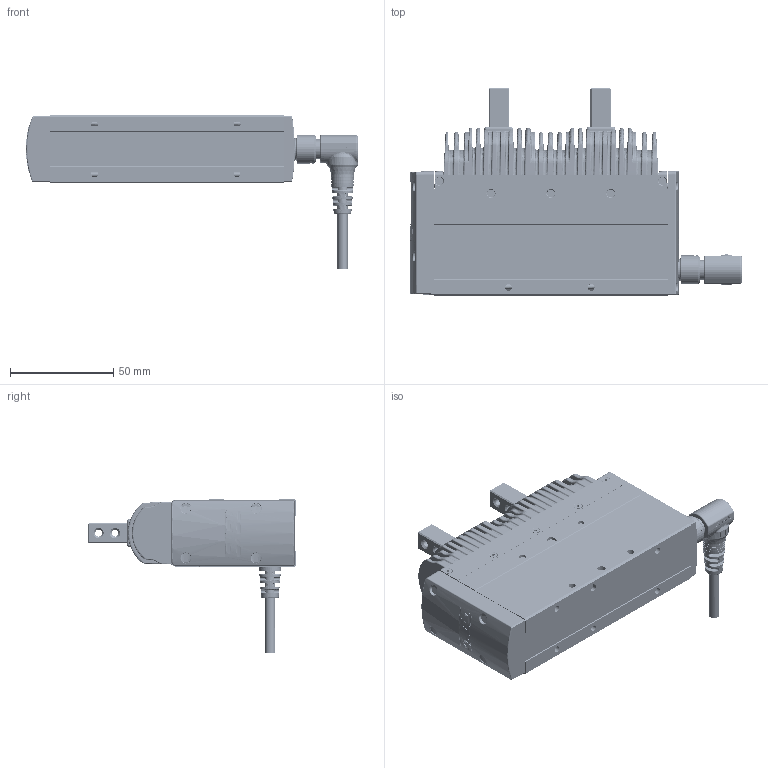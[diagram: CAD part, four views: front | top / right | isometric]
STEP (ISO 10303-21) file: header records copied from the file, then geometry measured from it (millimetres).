
FILE_DESCRIPTION(/* description */ ('STEP AP203'),/* implementation_level */ '2;1');
FILE_NAME(/* name */ 'D:\2025.02.25 帶電匯整給泊舟\3. CHS2系列\4.3D組立\CHS2C-S40-WL.stp',/* time_stamp */ '2025-02-25T18:26:29+08:00',/* author */ ('T10033'),/* organization */ (''),/* preprocessor_version */ 'ST-DEVELOPER v18.1',/* originating_system */ 'Autodesk Inventor 2020',/* authorisation */ '');
FILE_SCHEMA (('CONFIG_CONTROL_DESIGN'));
Products named in the file (6): CHS2C-S40; 12005-000077; 22149-000009-02; 慶陞M12金屬頭; 26TE3Y6DE4R5_Shrinkwrap_1; M12-14PIN 線端90度接頭-05中繼線
Assembly tree (6 placements, depth 2):
  CHS2C-S40
    12005-000077  x2
    22149-000009-02
    慶陞M12金屬頭
    26TE3Y6DE4R5_Shrinkwrap_1
    M12-14PIN 線端90度接頭-05中繼線
Bounding box: 160.72 x 100.5 x 74.5 mm (x, y, z)
Volume: 246724.7 mm3; surface area: 84498.6 mm2
Topology: 20 solids, 25 shells, 5301 faces, 13888 edges, 8682 vertices
Faces by surface type: plane 1742, bspline 1455, cylinder 1439, cone 404, torus 223, sphere 38
Full cylindrical faces by diameter (mm): 0.6 x14, 0.65 x14, 1 x14, 2 x31, 2.2 x14, 2.5 x42, 3 x5, 3.2 x8, 3.3 x16, 3.8 x9, 4 x6, 4.5 x2, 5 x1, 8 x1, 8.9 x1, 9.5 x2, 9.6 x1, 10.5 x2, 10.9 x1, 11 x2, 11.2 x1, 11.25 x1, 12 x1, 13 x1, 13.8 x1, 14 x2, 14.4 x1, 16.482 x1
Entity records: 249037 total; most frequent: CARTESIAN_POINT 124154, ORIENTED_EDGE 27098, DIRECTION 24603, EDGE_CURVE 13567, AXIS2_PLACEMENT_3D 9730, VERTEX_POINT 8541, EDGE_LOOP 5564, FACE_OUTER_BOUND 5225
